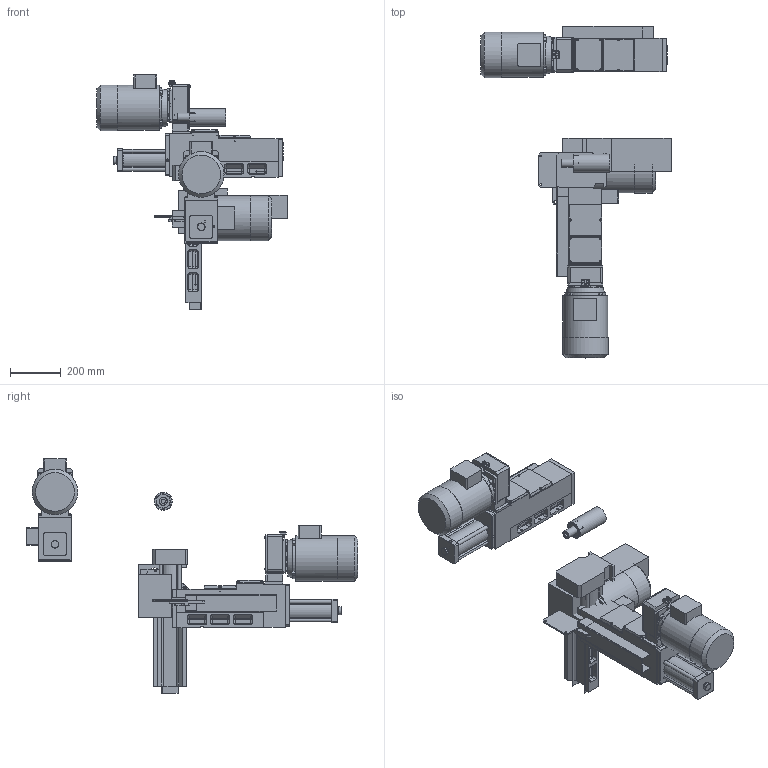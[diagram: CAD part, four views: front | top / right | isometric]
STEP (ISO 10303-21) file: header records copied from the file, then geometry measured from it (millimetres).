
FILE_DESCRIPTION( ( 'STEP AP203' ), '1' );
FILE_NAME( 'C:/Documents and Settings/Saverio/Desktop/disegni ironcad/unità serie 2/F218 (ex F222)/F 218_A04_P.stp', '2013-12-10T17:18:32', ( ' ' ), ( ' ' ), 'XStep 1.0', ' ', ' ' );
FILE_SCHEMA( ( 'CONFIG_CONTROL_DESIGN' ) );
Length unit declared in the file: metre
Products named in the file (40): Assem1; Assem2; Assem3; 1; 2; 3; 4; 5; 6; 7; 8; 9; 10; 11; 12; 13; 14; 15; 16; 17; 18; 19; 20; 21; 22; 23; 24; 25; 26; 27; 28; 29; 30; 31; 32; 33; 34; 35; 36; 37
Bounding box: 746.57 x 1302.73 x 919.21 mm (x, y, z)
Volume: 48314479.7 mm3; surface area: 4329828.2 mm2
Topology: 111 solids, 111 shells, 2919 faces, 6756 edges, 4071 vertices
Faces by surface type: plane 1581, cylinder 780, cone 360, bspline 108, sphere 60, torus 30
Full cylindrical faces by diameter (mm): 5 x45, 5.5 x21, 6 x6, 6.5 x18, 6.637 x15, 6.647 x12, 8.385 x3, 8.5 x36, 8.75 x18, 10.25 x6, 16 x3, 18 x3, 24 x3, 27.5 x3, 30 x3, 31.2 x3, 32 x6, 52 x3, 53 x3, 54 x6, 70 x6, 76 x3, 80 x9, 95 x3, 177.21 x3, 179 x3
Entity records: 29919 total; most frequent: CARTESIAN_POINT 7414, DIRECTION 4315, ORIENTED_EDGE 3944, EDGE_CURVE 1972, AXIS2_PLACEMENT_3D 1573, VERTEX_POINT 1312, EDGE_LOOP 1258, LINE 1169
